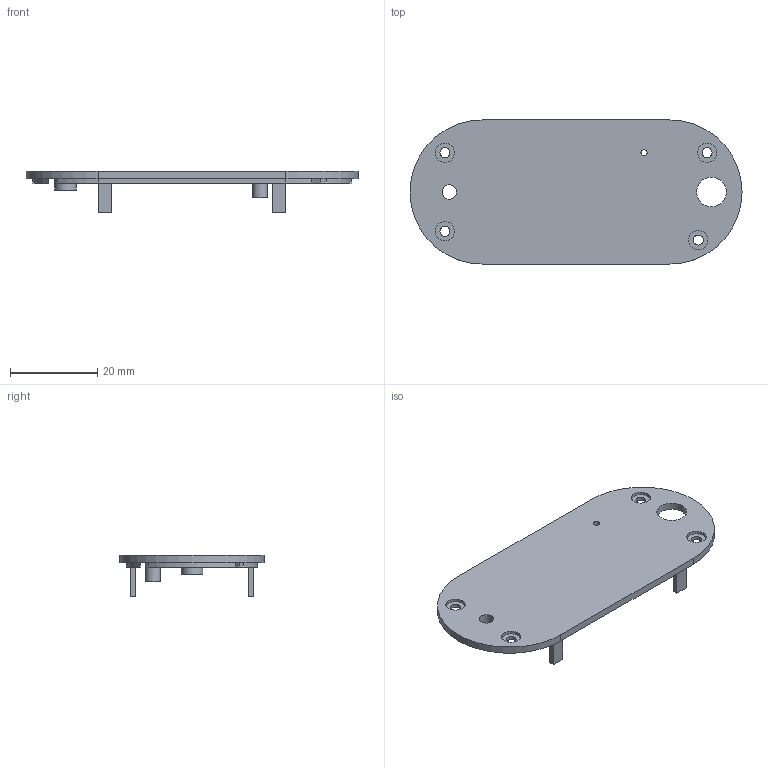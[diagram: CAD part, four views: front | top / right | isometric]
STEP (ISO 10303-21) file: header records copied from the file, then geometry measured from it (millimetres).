
FILE_DESCRIPTION(('Open CASCADE Model'),'2;1');
FILE_NAME('Open CASCADE Shape Model','2026-08-28T00:57:55',('Author'),( 'Open CASCADE'),'Open CASCADE STEP processor 7.8','Open CASCADE 7.8' ,'Unknown');
FILE_SCHEMA(('AUTOMOTIVE_DESIGN { 1 0 10303 214 1 1 1 1 }'));
Length unit declared in the file: millimetre
Products named in the file (1): Open CASCADE STEP translator 7.8 2
Bounding box: 76 x 33 x 9.5 mm (x, y, z)
Volume: 4002.2 mm3; surface area: 5608.7 mm2
Topology: 1 solids, 1 shells, 74 faces, 183 edges, 122 vertices
Faces by surface type: plane 43, cylinder 31
Full cylindrical faces by diameter (mm): 1.4 x1, 2.3 x4, 3.3 x1, 3.4 x1, 4.4 x4, 4.9 x1, 5.8 x4, 6.8 x1
Entity records: 4724 total; most frequent: CARTESIAN_POINT 1024, DIRECTION 699, ORIENTED_EDGE 366, PCURVE 366, DEFINITIONAL_REPRESENTATION 366, LINE 355, VECTOR 355, EDGE_CURVE 183
